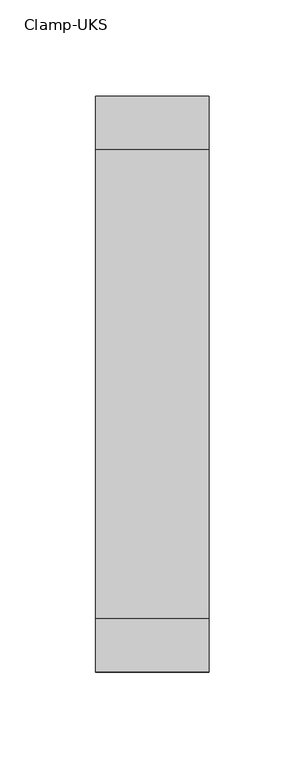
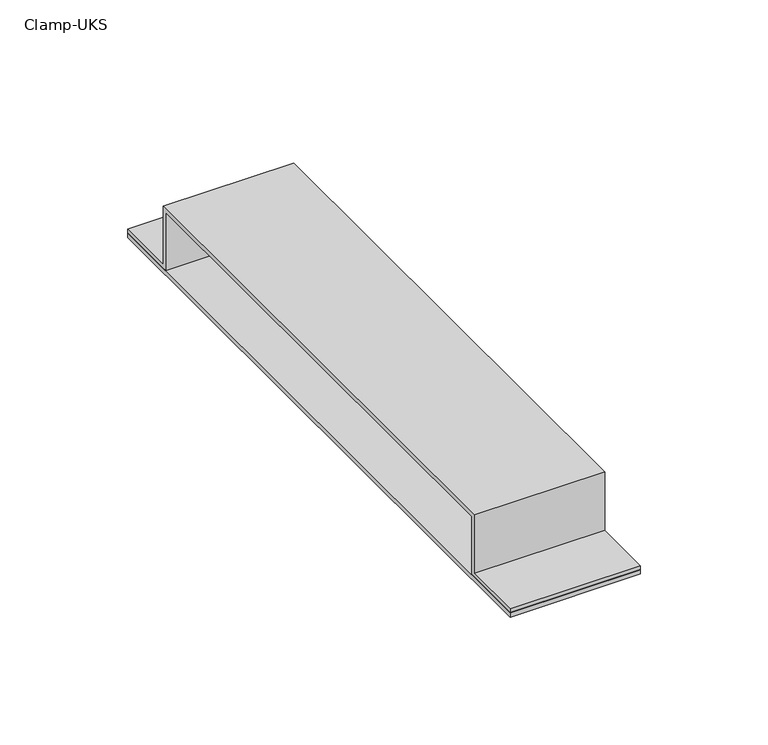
"""IFC4 building model written with IfcOpenShell, lengths in millimetres: cable carrier fitting geometry, Electrical-Installations_Hager_Clamp-UKS : Clamp-UKS."""

import ifcopenshell
import ifcopenshell.guid

model = None  # the IFC model being written
_history = None  # IfcOwnerHistory: only IFC2X3 demands one
_inside = {}  # id of a spatial element -> (the spatial element, [elements in it])
_under = {}  # id of a project, library or spatial element -> (it, [spatial elements below it])
_declared = {}  # id of a project -> (the project, [libraries it declares])
_typed = {}  # id of a type object -> (the type object, [elements of that type])
_made_of = {}  # id of a material, layer set ... -> (it, [elements and type objects made of it])


def new_model(schema):
    """Start an empty IFC model of exactly this schema.

    Asked for "IFC4X3", IfcOpenShell would pick the latest addendum, in which some entities
    have other attributes; the version numbers below select the first issue.
    IFC2X3 requires an IfcOwnerHistory on every rooted entity: one is made here for all.
    """
    global model, _history
    if schema == "IFC4X3":
        model = ifcopenshell.file(schema_version=(4, 3, 0, 0))
    else:
        model = ifcopenshell.file(schema=schema)
    _inside.clear()
    _under.clear()
    _declared.clear()
    _typed.clear()
    _made_of.clear()
    _history = None
    if model.schema == "IFC2X3":
        org = make("IfcOrganization", Name="unknown")
        user = make(
            "IfcPersonAndOrganization",
            ThePerson=make("IfcPerson", FamilyName="unknown"),
            TheOrganization=org,
        )
        app = make(
            "IfcApplication",
            ApplicationDeveloper=org,
            Version="unknown",
            ApplicationFullName="unknown",
            ApplicationIdentifier="unknown",
        )
        _history = make(
            "IfcOwnerHistory",
            OwningUser=user,
            OwningApplication=app,
            ChangeAction="ADDED",
            CreationDate=0,
        )
    return model


def make(cls, **values):
    """One entity of the class cls with the attributes given. An attribute that is None is left unset."""
    return model.create_entity(
        cls, **{name: value for name, value in values.items() if value is not None}
    )


def rooted(cls, **values):
    """An entity with a GlobalId (a new one), such as an element, a storey or a relation."""
    return make(cls, GlobalId=ifcopenshell.guid.new(), OwnerHistory=_history, **values)


def si_unit(unit_type, name, prefix=None):
    """IfcSIUnit, for example si_unit("LENGTHUNIT", "METRE", prefix="MILLI")."""
    return make("IfcSIUnit", UnitType=unit_type, Prefix=prefix, Name=name)


def assignment(units):
    """IfcUnitAssignment: the units of a project."""
    return None if units is None else make("IfcUnitAssignment", Units=units)


def point(xyz):
    """IfcCartesianPoint."""
    return None if xyz is None else make("IfcCartesianPoint", Coordinates=xyz)


def direction(xyz):
    """IfcDirection."""
    return None if xyz is None else make("IfcDirection", DirectionRatios=xyz)


def frame(location, z_axis=None, x_axis=None):
    """IfcAxis2Placement3D, a coordinate frame: its origin and axes. An axis left out is left unset."""
    return make(
        "IfcAxis2Placement3D",
        Location=point(location),
        Axis=direction(z_axis),
        RefDirection=direction(x_axis),
    )


def origin():
    """The frame at (0, 0, 0) with its axes left unset."""
    return frame((0.0, 0.0, 0.0))


def place(relative_to, where):
    """IfcLocalPlacement: puts the frame where relative to a parent placement (None: the world)."""
    return make(
        "IfcLocalPlacement", PlacementRelTo=relative_to, RelativePlacement=where
    )


def context(
    kind, dimensions, precision=None, world=None, true_north=None, identifier=None
):
    """IfcGeometricRepresentationContext, for example the 3D "Model" context."""
    return make(
        "IfcGeometricRepresentationContext",
        ContextIdentifier=identifier,
        ContextType=kind,
        CoordinateSpaceDimension=dimensions,
        Precision=precision,
        WorldCoordinateSystem=world,
        TrueNorth=true_north,
    )


def project(units=None, contexts=None):
    """IfcProject with its units and contexts."""
    return rooted(
        "IfcProject",
        Name="project",
        RepresentationContexts=contexts,
        UnitsInContext=assignment(units),
    )


def spatial(cls, under=None, at=None, **own):
    """A site, building, storey or space (cls), placed at a placement, below another one or the project."""
    s = rooted(cls, ObjectPlacement=at, **own)
    if under is not None:
        _under.setdefault(under.id(), (under, []))[1].append(s)
    return s


def polyline(points):
    """IfcPolyline through the points."""
    return make("IfcPolyline", Points=[point(p) for p in points])


def outline(outer, holes=None, kind="AREA"):
    """IfcArbitraryClosedProfileDef: a profile drawn as a closed curve; with holes, ...WithVoids."""
    if holes is None:
        return make("IfcArbitraryClosedProfileDef", ProfileType=kind, OuterCurve=outer)
    return make(
        "IfcArbitraryProfileDefWithVoids",
        ProfileType=kind,
        OuterCurve=outer,
        InnerCurves=holes,
    )


def extrude(swept, where, along, depth):
    """IfcExtrudedAreaSolid: the profile swept, set in the frame where, extruded along a direction by depth."""
    return make(
        "IfcExtrudedAreaSolid",
        SweptArea=swept,
        Position=where,
        ExtrudedDirection=direction(along),
        Depth=depth,
    )


def shape(context_of_items, identifier, shape_type, items):
    """IfcShapeRepresentation: the items that make up one representation, for example the "Body"."""
    return make(
        "IfcShapeRepresentation",
        ContextOfItems=context_of_items,
        RepresentationIdentifier=identifier,
        RepresentationType=shape_type,
        Items=items,
    )


def source(mapping_origin, context_of_items, identifier, shape_type, items):
    """IfcRepresentationMap: a shape defined once, which mapped items show again and again."""
    return make(
        "IfcRepresentationMap",
        MappingOrigin=mapping_origin,
        MappedRepresentation=shape(context_of_items, identifier, shape_type, items),
    )


def transform(
    local_origin,
    x_axis=None,
    y_axis=None,
    z_axis=None,
    scale=None,
    scale2=None,
    scale3=None,
    uniform=True,
):
    """IfcCartesianTransformationOperator3D, or its non-uniform kind. x_axis, y_axis, z_axis: its Axis1, 2, 3."""
    if uniform:
        return make(
            "IfcCartesianTransformationOperator3D",
            Axis1=direction(x_axis),
            Axis2=direction(y_axis),
            LocalOrigin=point(local_origin),
            Scale=scale,
            Axis3=direction(z_axis),
        )
    return make(
        "IfcCartesianTransformationOperator3DnonUniform",
        Axis1=direction(x_axis),
        Axis2=direction(y_axis),
        LocalOrigin=point(local_origin),
        Scale=scale,
        Axis3=direction(z_axis),
        Scale2=scale2,
        Scale3=scale3,
    )


def mapped(mapping_source, mapping_target):
    """IfcMappedItem: shows the shape of a source again, moved by a transform."""
    return make(
        "IfcMappedItem", MappingSource=mapping_source, MappingTarget=mapping_target
    )


def made_of(thing, what):
    """Note that an element or type object is made of a material, layer set ...; save() writes the relation."""
    if what is not None:
        _made_of.setdefault(what.id(), (what, []))[1].append(thing)
    return thing


def element(
    cls,
    number,
    at=None,
    inside=None,
    cuts=None,
    type_object=None,
    material=None,
    context=None,
    identifier="Body",
    shape_type=None,
    held_by="IfcProductDefinitionShape",
    body=None,
    shapes=None,
    **own,
):
    """One element of the class cls, such as IfcWall. Its Tag is "e" and its number.

    at: its placement. inside: the storey or other place that contains it. cuts: it is an
    opening in that element (IfcRelVoidsElement). A single representation is given by context,
    identifier, shape_type and body (its items); several are given by shapes. held_by: the class
    of the entity that holds the representations. save() writes the other relations.
    """
    e = rooted(cls, Tag="e%d" % number, ObjectPlacement=at, **own)
    if body is not None:
        shapes = [shape(context, identifier, shape_type, body)]
    if shapes is not None:
        e.Representation = make(held_by, Representations=shapes)
    if inside is not None:
        _inside.setdefault(inside.id(), (inside, []))[1].append(e)
    if cuts is not None:
        rooted(
            "IfcRelVoidsElement", RelatingBuildingElement=cuts, RelatedOpeningElement=e
        )
    if type_object is not None:
        _typed.setdefault(type_object.id(), (type_object, []))[1].append(e)
    return made_of(e, material)


def aggregate(whole, parts):
    """IfcRelAggregates: a whole, such as a stair, and the parts it consists of."""
    return rooted("IfcRelAggregates", RelatingObject=whole, RelatedObjects=parts)


def save(model, path):
    """Write the relations noted so far, then the file.

    IfcRelAggregates (storeys below a building ...), IfcRelContainedInSpatialStructure (elements
    in a storey), IfcRelDefinesByType, IfcRelAssociatesMaterial and IfcRelDeclares: one each for
    every whole, place, type object, material and project.
    """
    for whole, parts in _under.values():
        aggregate(whole, parts)
    for where, things in _inside.values():
        rooted(
            "IfcRelContainedInSpatialStructure",
            RelatedElements=things,
            RelatingStructure=where,
        )
    for kind, things in _typed.values():
        rooted("IfcRelDefinesByType", RelatedObjects=things, RelatingType=kind)
    for what, things in _made_of.values():
        rooted("IfcRelAssociatesMaterial", RelatedObjects=things, RelatingMaterial=what)
    for by, libraries in _declared.values():
        rooted("IfcRelDeclares", RelatingContext=by, RelatedDefinitions=libraries)
    model.write(path)


def clamp_uks_47fe2a39(model_context):
    return source(origin(), model_context, "Body", "SweptSolid", [
        extrude(outline(polyline([(59.0, 150.0), (59.0, -150.0), (0.0, -150.0), (0.0, 150.0), (59.0, 150.0)])), frame((0.0, 0.0, -16.0), z_axis=(0.0, 0.0, 1.0), x_axis=(1.0, 0.0, 0.0)), (0.0, 0.0, 1.0), 2.0),
        extrude(outline(polyline([(120.0, 14.0), (-120.0, 14.0), (-120.0, -14.0), (-150.0, -14.0), (-150.0, -11.96), (-122.0, -11.96), (-122.0, 16.0), (122.0, 16.0), (122.0, -11.96), (150.0, -11.96), (150.0, -14.0), (120.0, -14.0), (120.0, 14.0)])), frame((0.0, 0.0, 0.0), z_axis=(1.0, 0.0, 0.0), x_axis=(0.0, 1.0, 0.0)), (0.0, 0.0, 1.0), 59.0),
    ])


if __name__ == "__main__":
    model = new_model("IFC4")
    model_context = context("Model", 3, world=origin())
    ifc_project = project(units=[si_unit("LENGTHUNIT", "METRE", prefix="MILLI")], contexts=[model_context])
    site = spatial("IfcSite", under=ifc_project)
    building = spatial("IfcBuilding", under=site)
    placement = place(None, origin())
    clamp_uks_shape = clamp_uks_47fe2a39(model_context)
    element("IfcCableCarrierFitting", 1, ObjectType="Electrical-Installations_Hager_Clamp-UKS : Clamp-UKS", at=placement, inside=building, context=model_context, shape_type="MappedRepresentation", body=[
        mapped(clamp_uks_shape, transform((0.0, 0.0, 0.0), x_axis=(1.0, 0.0, 0.0), y_axis=(0.0, 1.0, 0.0), z_axis=(0.0, 0.0, 1.0))),
    ])
    save(model, "model.ifc")
